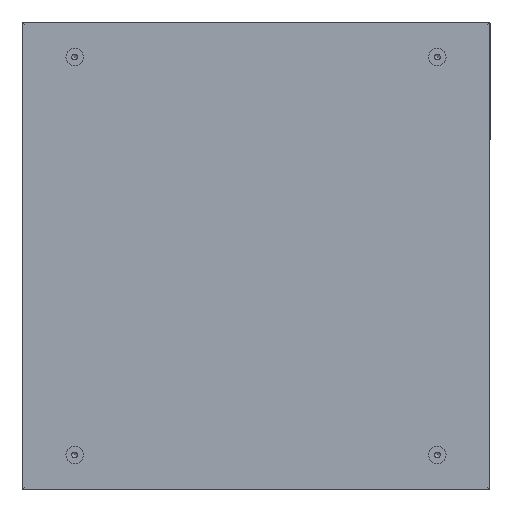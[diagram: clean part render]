
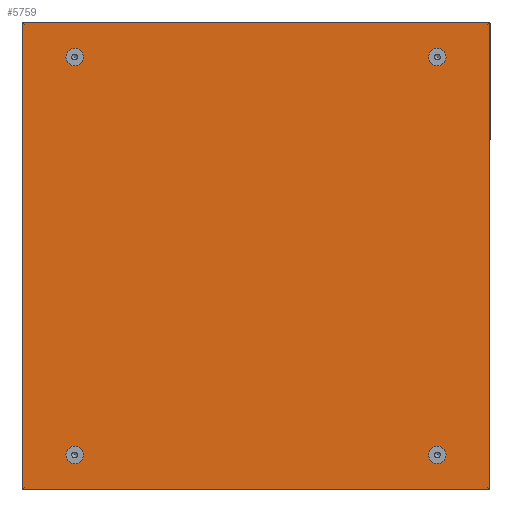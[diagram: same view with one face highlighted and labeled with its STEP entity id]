
A CAD part, left-side view. The second image highlights one B-rep face of the part: STEP entity #5759.
In plain terms, the highlighted planar face has unit normal (-1, 0, 0).
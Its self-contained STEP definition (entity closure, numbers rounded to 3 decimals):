
#463=CIRCLE('',#7635,5.125);
#465=CIRCLE('',#7638,5.125);
#467=CIRCLE('',#7641,5.125);
#476=CIRCLE('',#7675,5.125);
#1600=ORIENTED_EDGE('',*,*,#2531,.F.);
#1601=ORIENTED_EDGE('',*,*,#2533,.F.);
#1602=ORIENTED_EDGE('',*,*,#2535,.F.);
#1603=ORIENTED_EDGE('',*,*,#2632,.F.);
#1604=ORIENTED_EDGE('',*,*,#2633,.T.);
#1605=ORIENTED_EDGE('',*,*,#2634,.F.);
#1606=ORIENTED_EDGE('',*,*,#2635,.T.);
#1607=ORIENTED_EDGE('',*,*,#2636,.T.);
#1608=ORIENTED_EDGE('',*,*,#2637,.T.);
#1609=ORIENTED_EDGE('',*,*,#2638,.F.);
#1610=ORIENTED_EDGE('',*,*,#2639,.T.);
#1611=ORIENTED_EDGE('',*,*,#2640,.T.);
#1612=ORIENTED_EDGE('',*,*,#2641,.T.);
#1613=ORIENTED_EDGE('',*,*,#2642,.T.);
#1614=ORIENTED_EDGE('',*,*,#2643,.T.);
#1615=ORIENTED_EDGE('',*,*,#2644,.T.);
#2531=EDGE_CURVE('',#3142,#3142,#463,.T.);
#2533=EDGE_CURVE('',#3144,#3144,#465,.T.);
#2535=EDGE_CURVE('',#3146,#3146,#467,.T.);
#2632=EDGE_CURVE('',#3223,#3223,#476,.T.);
#2633=EDGE_CURVE('',#3224,#3225,#3758,.T.);
#2634=EDGE_CURVE('',#3226,#3225,#3759,.T.);
#2635=EDGE_CURVE('',#3226,#3227,#3760,.F.);
#2636=EDGE_CURVE('',#3227,#3228,#3761,.T.);
#2637=EDGE_CURVE('',#3228,#3229,#3762,.T.);
#2638=EDGE_CURVE('',#3230,#3229,#3763,.F.);
#2639=EDGE_CURVE('',#3230,#3231,#3764,.T.);
#2640=EDGE_CURVE('',#3231,#3232,#3765,.T.);
#2641=EDGE_CURVE('',#3232,#3233,#3766,.F.);
#2642=EDGE_CURVE('',#3233,#3234,#3767,.T.);
#2643=EDGE_CURVE('',#3234,#3235,#3768,.T.);
#2644=EDGE_CURVE('',#3235,#3224,#3769,.F.);
#3142=VERTEX_POINT('',#10582);
#3144=VERTEX_POINT('',#10587);
#3146=VERTEX_POINT('',#10592);
#3223=VERTEX_POINT('',#10791);
#3224=VERTEX_POINT('',#10793);
#3225=VERTEX_POINT('',#10794);
#3226=VERTEX_POINT('',#10796);
#3227=VERTEX_POINT('',#10798);
#3228=VERTEX_POINT('',#10800);
#3229=VERTEX_POINT('',#10802);
#3230=VERTEX_POINT('',#10804);
#3231=VERTEX_POINT('',#10806);
#3232=VERTEX_POINT('',#10808);
#3233=VERTEX_POINT('',#10810);
#3234=VERTEX_POINT('',#10812);
#3235=VERTEX_POINT('',#10814);
#3758=LINE('',#10792,#4311);
#3759=LINE('',#10795,#4312);
#3760=LINE('',#10797,#4313);
#3761=LINE('',#10799,#4314);
#3762=LINE('',#10801,#4315);
#3763=LINE('',#10803,#4316);
#3764=LINE('',#10805,#4317);
#3765=LINE('',#10807,#4318);
#3766=LINE('',#10809,#4319);
#3767=LINE('',#10811,#4320);
#3768=LINE('',#10813,#4321);
#3769=LINE('',#10815,#4322);
#4311=VECTOR('',#9061,1000.);
#4312=VECTOR('',#9062,1000.);
#4313=VECTOR('',#9063,1000.);
#4314=VECTOR('',#9064,1000.);
#4315=VECTOR('',#9065,1000.);
#4316=VECTOR('',#9066,1000.);
#4317=VECTOR('',#9067,1000.);
#4318=VECTOR('',#9068,1000.);
#4319=VECTOR('',#9069,1000.);
#4320=VECTOR('',#9070,1000.);
#4321=VECTOR('',#9071,1000.);
#4322=VECTOR('',#9072,1000.);
#4732=EDGE_LOOP('',(#1600));
#4733=EDGE_LOOP('',(#1601));
#4734=EDGE_LOOP('',(#1602));
#4735=EDGE_LOOP('',(#1603));
#4736=EDGE_LOOP('',(#1604,#1605,#1606,#1607,#1608,#1609,#1610,#1611,#1612,
#1613,#1614,#1615));
#5155=FACE_BOUND('',#4732,.T.);
#5156=FACE_BOUND('',#4733,.T.);
#5157=FACE_BOUND('',#4734,.T.);
#5158=FACE_BOUND('',#4735,.T.);
#5159=FACE_BOUND('',#4736,.T.);
#5454=PLANE('',#7674);
#5759=ADVANCED_FACE('',(#5155,#5156,#5157,#5158,#5159),#5454,.T.);
#7635=AXIS2_PLACEMENT_3D('',#10581,#8891,#8892);
#7638=AXIS2_PLACEMENT_3D('',#10586,#8897,#8898);
#7641=AXIS2_PLACEMENT_3D('',#10591,#8903,#8904);
#7674=AXIS2_PLACEMENT_3D('',#10789,#9057,#9058);
#7675=AXIS2_PLACEMENT_3D('',#10790,#9059,#9060);
#8891=DIRECTION('',(-1.,0.,0.));
#8892=DIRECTION('',(0.,-1.,0.));
#8897=DIRECTION('',(-1.,0.,0.));
#8898=DIRECTION('',(0.,-1.,0.));
#8903=DIRECTION('',(-1.,0.,0.));
#8904=DIRECTION('',(0.,-1.,0.));
#9057=DIRECTION('',(-1.,0.,0.));
#9058=DIRECTION('',(0.,-1.,0.));
#9059=DIRECTION('',(-1.,0.,0.));
#9060=DIRECTION('',(0.,-1.,0.));
#9061=DIRECTION('',(0.,0.,1.));
#9062=DIRECTION('',(0.,-0.708,0.706));
#9063=DIRECTION('',(0.,0.706,-0.708));
#9064=DIRECTION('',(0.,1.,0.));
#9065=DIRECTION('',(0.,-0.706,-0.708));
#9066=DIRECTION('',(0.,0.708,0.706));
#9067=DIRECTION('',(0.,0.,-1.));
#9068=DIRECTION('',(0.,-0.708,0.706));
#9069=DIRECTION('',(0.,-0.706,0.708));
#9070=DIRECTION('',(0.,-1.,0.));
#9071=DIRECTION('',(0.,0.706,0.708));
#9072=DIRECTION('',(0.,0.708,0.706));
#10581=CARTESIAN_POINT('',(-1.2,155.,-170.));
#10582=CARTESIAN_POINT('',(-1.2,149.875,-170.));
#10586=CARTESIAN_POINT('',(-1.2,155.,170.));
#10587=CARTESIAN_POINT('',(-1.2,149.875,170.));
#10591=CARTESIAN_POINT('',(-1.2,-155.,-170.));
#10592=CARTESIAN_POINT('',(-1.2,-160.125,-170.));
#10789=CARTESIAN_POINT('',(-1.2,0.,0.));
#10790=CARTESIAN_POINT('',(-1.2,-155.,170.));
#10791=CARTESIAN_POINT('',(-1.2,-160.125,170.));
#10792=CARTESIAN_POINT('',(-1.2,-200.,0.));
#10793=CARTESIAN_POINT('',(-1.2,-200.,-199.995));
#10794=CARTESIAN_POINT('',(-1.2,-200.,199.995));
#10795=CARTESIAN_POINT('',(-1.2,510.376,-508.836));
#10796=CARTESIAN_POINT('',(-1.2,-197.5,197.5));
#10797=CARTESIAN_POINT('',(-1.2,-0.215,-0.215));
#10798=CARTESIAN_POINT('',(-1.2,-199.995,200.));
#10799=CARTESIAN_POINT('',(-1.2,0.,200.));
#10800=CARTESIAN_POINT('',(-1.2,199.995,200.));
#10801=CARTESIAN_POINT('',(-1.2,0.215,-0.215));
#10802=CARTESIAN_POINT('',(-1.2,197.5,197.5));
#10803=CARTESIAN_POINT('',(-1.2,-510.376,-508.836));
#10804=CARTESIAN_POINT('',(-1.2,200.,199.995));
#10805=CARTESIAN_POINT('',(-1.2,200.,0.));
#10806=CARTESIAN_POINT('',(-1.2,200.,-199.995));
#10807=CARTESIAN_POINT('',(-1.2,-0.215,-0.215));
#10808=CARTESIAN_POINT('',(-1.2,197.5,-197.5));
#10809=CARTESIAN_POINT('',(-1.2,0.215,0.215));
#10810=CARTESIAN_POINT('',(-1.2,199.995,-200.));
#10811=CARTESIAN_POINT('',(-1.2,0.,-200.));
#10812=CARTESIAN_POINT('',(-1.2,-199.995,-200.));
#10813=CARTESIAN_POINT('',(-1.2,-0.215,0.215));
#10814=CARTESIAN_POINT('',(-1.2,-197.5,-197.5));
#10815=CARTESIAN_POINT('',(-1.2,0.215,-0.215));
